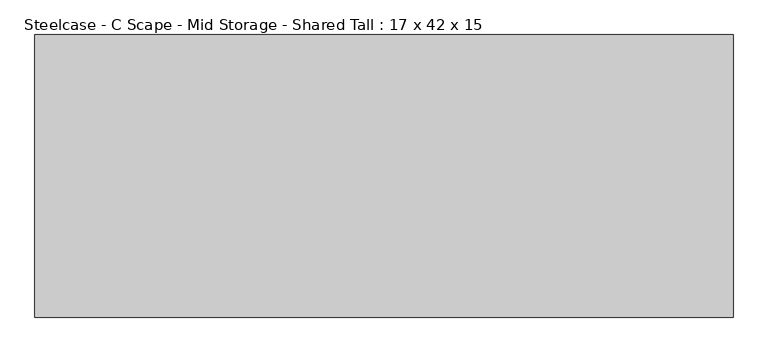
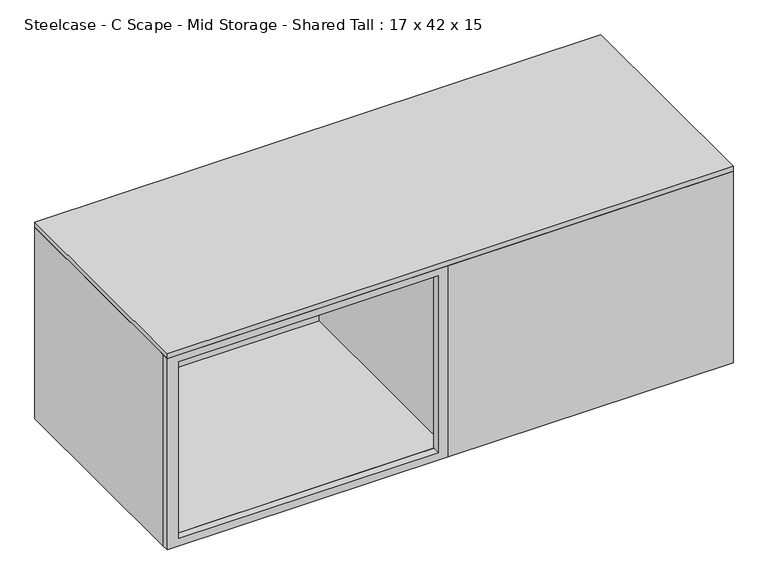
"""IFC4 building model written with IfcOpenShell, lengths in millimetres: furniture geometry, Steelcase - C Scape - Mid Storage - Shared Tall : 17 x 42 x 15."""

from ifc_helpers import new_model, si_unit, frame, origin, place, context, project, spatial, polyline, outline, extrude, faceted_brep, source, transform, mapped, element, save


def steelcase_c_scape_mid_storage_shared_tall_17_x_42_x_15_830399fe(model_context):
    return source(origin(), model_context, "Body", "SolidModel", [
        faceted_brep([(536.575, 215.9, 1219.279375), (0.0, 215.9, 1219.279375), (0.0, -201.2949309, 1219.279375), (21.9711633, -201.2949309, 1219.279375), (21.9711633, 206.3755809, 1219.279375), (530.225, 206.3755809, 1219.279375), (530.225, -215.9, 1219.279375), (1066.8, -215.9, 1219.279375), (1066.8, 206.3755809, 1219.279375), (1044.702, 206.3755809, 1219.279375), (1044.702, -201.2949309, 1219.279375), (536.575, -201.2949309, 1219.279375), (1066.8, 206.3755809, 838.2), (1066.8, -215.9, 838.2), (530.225, -215.9, 838.2), (530.225, -201.2949309, 838.2), (0.0, -201.2949309, 838.2), (0.0, 215.9, 838.2), (536.575, 215.9, 838.2), (536.575, 206.3755809, 838.2), (530.225, -201.2949309, 853.4399855), (21.9711633, -201.2949309, 853.4399855), (21.9711633, 206.3755809, 853.4399855), (530.225, 206.3755809, 853.4399855), (536.575, 206.3755809, 853.4399855), (1044.702, 206.3755809, 853.4399855), (1044.702, -201.2949309, 853.4399855), (536.575, -201.2949309, 853.4399855)], [[[0, 1, 2, 3, 4, 5, 6, 7, 8, 9, 10, 11]], [[12, 13, 14, 15, 16, 17, 18, 19]], [[1, 0, 18, 17]], [[2, 1, 17, 16]], [[3, 2, 16, 15, 20, 21]], [[4, 3, 21, 22]], [[5, 4, 22, 23]], [[6, 5, 23, 20, 15, 14]], [[7, 6, 14, 13]], [[8, 7, 13, 12]], [[9, 8, 12, 19, 24, 25]], [[10, 9, 25, 26]], [[11, 10, 26, 27]], [[0, 11, 27, 24, 19, 18]], [[21, 20, 23, 22]], [[25, 24, 27, 26]]]),
        extrude(outline(polyline([(1219.279375, 1066.8), (1219.279375, 536.575), (838.2, 536.575), (838.2, 1066.8), (1219.279375, 1066.8)]), holes=[polyline([(1205.8427824, 1044.702), (853.4399855, 1044.702), (853.4399855, 555.498), (1205.8427824, 555.498), (1205.8427824, 1044.702)])]), frame((0.0, 206.3755809, 0.0), z_axis=(0.0, 1.0, 0.0), x_axis=(0.0, 0.0, 1.0)), (0.0, 0.0, 1.0), 9.5244191),
        extrude(outline(polyline([(1219.279375, 530.225), (1219.279375, 0.0), (838.2, 0.0), (838.2, 530.225), (1219.279375, 530.225)]), holes=[polyline([(1205.8427824, 511.302), (853.4399855, 511.302), (853.4399855, 21.9711633), (1205.8427824, 21.9711633), (1205.8427824, 511.302)])]), frame((0.0, -215.9, 0.0), z_axis=(0.0, 1.0, 0.0), x_axis=(0.0, 0.0, 1.0)), (0.0, 0.0, 1.0), 14.6050691),
        extrude(outline(polyline([(1066.8, -215.9), (0.0, -215.9), (0.0, 215.9), (1066.8, 215.9), (1066.8, -215.9)])), frame((0.0, 0.0, 1219.279375), z_axis=(0.0, 0.0, 1.0), x_axis=(1.0, 0.0, 0.0)), (0.0, 0.0, 1.0), 10.080625),
    ])


if __name__ == "__main__":
    model = new_model("IFC4")
    model_context = context("Model", 3, world=origin())
    ifc_project = project(units=[si_unit("LENGTHUNIT", "METRE", prefix="MILLI")], contexts=[model_context])
    site = spatial("IfcSite", under=ifc_project)
    building = spatial("IfcBuilding", under=site)
    placement = place(None, origin())
    steelcase_c_scape_mid_storage_shared_tall_17_x_42_x_15_shape = steelcase_c_scape_mid_storage_shared_tall_17_x_42_x_15_830399fe(model_context)
    element("IfcFurniture", 1, ObjectType="Steelcase - C Scape - Mid Storage - Shared Tall : 17 x 42 x 15", at=placement, inside=building, context=model_context, shape_type="MappedRepresentation", body=[
        mapped(steelcase_c_scape_mid_storage_shared_tall_17_x_42_x_15_shape, transform((0.0, 0.0, 0.0), x_axis=(1.0, 0.0, 0.0), y_axis=(0.0, 1.0, 0.0), z_axis=(0.0, 0.0, 1.0))),
    ])
    save(model, "model.ifc")
